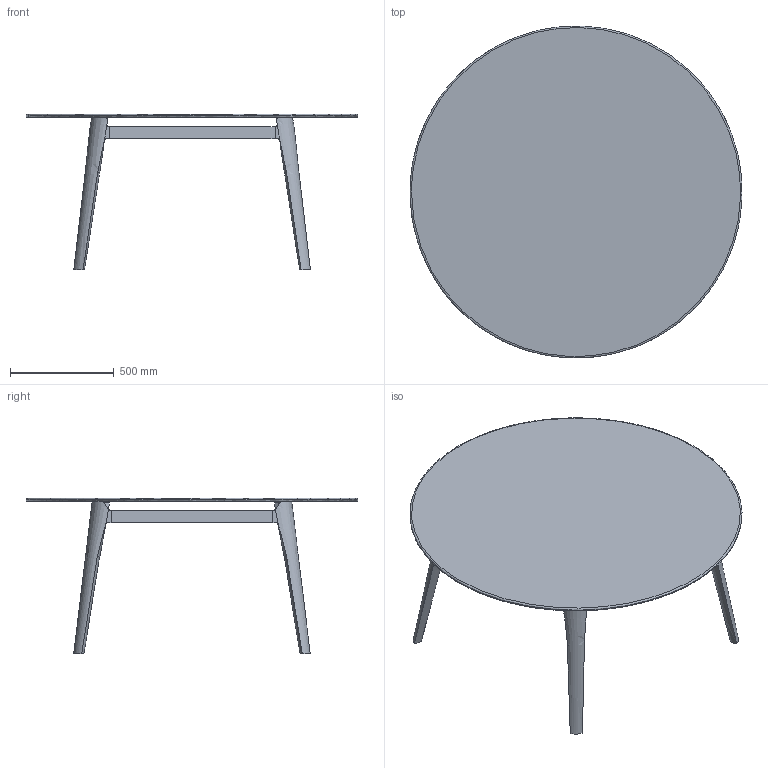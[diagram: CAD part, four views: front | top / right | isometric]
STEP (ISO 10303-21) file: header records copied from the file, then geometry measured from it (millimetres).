
FILE_DESCRIPTION(/* description */ (''),/* implementation_level */ '2;1');
FILE_NAME(/* name */ 'MAGMA_~3',/* time_stamp */ '2018-06-29T17:35:18+02:00',/* author */ (''),/* organization */ (''),/* preprocessor_version */ 'ST-DEVELOPER v16.5',/* originating_system */ '',/* authorisation */ '');
FILE_SCHEMA (('CONFIG_CONTROL_DESIGN'));
Length unit declared in the file: millimetre
Products named in the file (1): Document
Bounding box: 1599.26 x 1598.52 x 750.07 mm (x, y, z)
Volume: 43215382.8 mm3; surface area: 5387790 mm2
Topology: 7 solids, 9 shells, 192 faces, 551 edges, 375 vertices
Faces by surface type: bspline 130, plane 62
Entity records: 43374 total; most frequent: CARTESIAN_POINT 39809, ORIENTED_EDGE 1094, EDGE_CURVE 551, B_SPLINE_CURVE_WITH_KNOTS 546, VERTEX_POINT 375, ADVANCED_FACE 192, FACE_OUTER_BOUND 192, EDGE_LOOP 192
